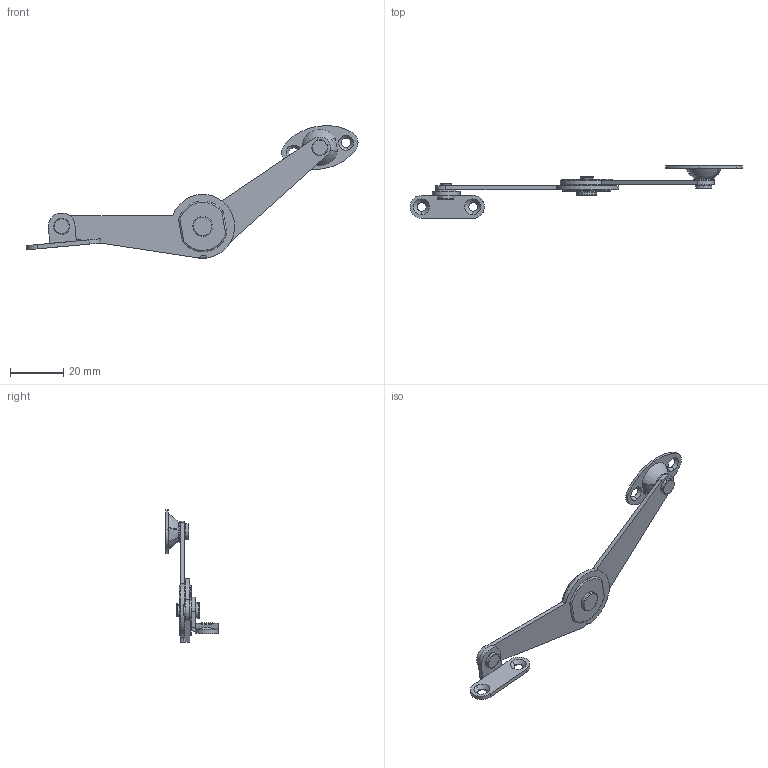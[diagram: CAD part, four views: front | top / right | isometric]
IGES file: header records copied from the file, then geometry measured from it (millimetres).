
Global section: file name: HNo Iges File Name specified; native system: AutoDesk Inventor R11.0; preprocessor: AutoDesk Inventor Iges Exporter R11.0; author: No Author specified; organization: No Organization specified; date: 20130711.154510; units: millimetre
Bounding box: 124.73 x 19.7 x 49.8 mm (x, y, z)
Volume: 4216.3 mm3; surface area: 7609.3 mm2
Topology: 12 solids, 12 shells, 216 faces, 503 edges, 317 vertices
Faces by surface type: plane 61, cylinder 58, revolution 44, torus 28, bspline 21, sphere 4
